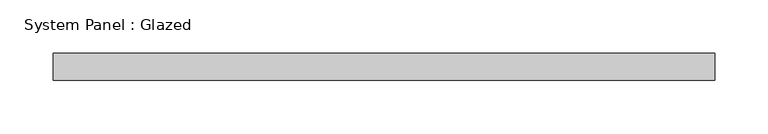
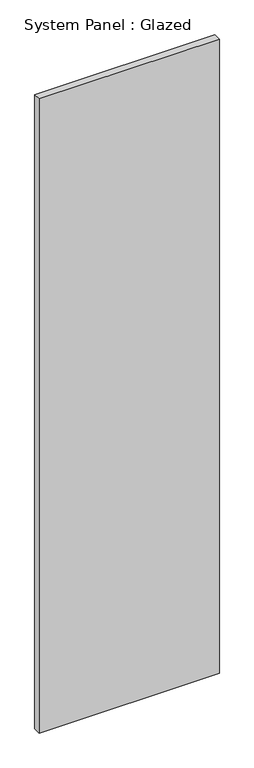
"""IFC4 building model written with IfcOpenShell, lengths in millimetres: plate geometry, System Panel : Glazed."""

from ifc_helpers import new_model, si_unit, origin, origin_with_axes, place, context, project, spatial, polyline, outline, extrude, source, transform, mapped, element, save


def system_panel_glazed_58499ce8(model_context):
    return source(origin(), model_context, "Body", "SweptSolid", [
        extrude(outline(polyline([(310.7083334, 19.05), (-310.7083334, 19.05), (-310.7083334, 44.45), (310.7083334, 44.45), (310.7083334, 19.05)])), origin_with_axes(), (0.0, 0.0, 1.0), 2309.7403044),
    ])


if __name__ == "__main__":
    model = new_model("IFC4")
    model_context = context("Model", 3, world=origin())
    ifc_project = project(units=[si_unit("LENGTHUNIT", "METRE", prefix="MILLI")], contexts=[model_context])
    site = spatial("IfcSite", under=ifc_project)
    building = spatial("IfcBuilding", under=site)
    placement = place(None, origin())
    system_panel_glazed_shape = system_panel_glazed_58499ce8(model_context)
    element("IfcPlate", 1, ObjectType="System Panel : Glazed", at=placement, inside=building, context=model_context, shape_type="MappedRepresentation", body=[
        mapped(system_panel_glazed_shape, transform((0.0, 0.0, 0.0), x_axis=(1.0, 0.0, 0.0), y_axis=(0.0, 1.0, 0.0), z_axis=(0.0, 0.0, 1.0))),
    ])
    save(model, "model.ifc")
